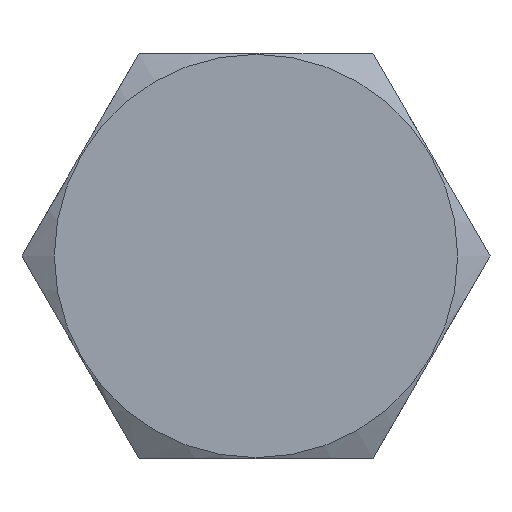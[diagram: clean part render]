
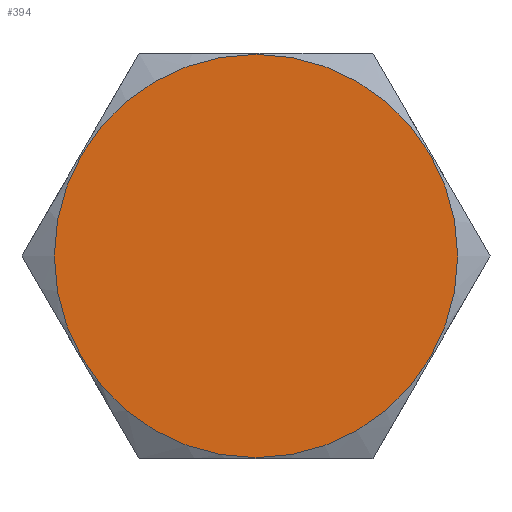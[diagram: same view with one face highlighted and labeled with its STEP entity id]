
A CAD part, front view. The second image highlights one B-rep face of the part: STEP entity #394.
In plain terms, the highlighted planar face has unit normal (0, -1, 0).
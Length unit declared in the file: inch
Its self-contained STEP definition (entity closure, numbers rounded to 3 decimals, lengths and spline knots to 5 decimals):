
#45=PLANE('',#448);
#74=FACE_OUTER_BOUND('',#100,.T.);
#100=EDGE_LOOP('',(#357));
#163=CIRCLE('',#447,0.684);
#200=VERTEX_POINT('',#796);
#254=EDGE_CURVE('',#200,#200,#163,.T.);
#357=ORIENTED_EDGE('',*,*,#254,.F.);
#394=ADVANCED_FACE('',(#74),#45,.T.);
#447=AXIS2_PLACEMENT_3D('',#797,#544,#545);
#448=AXIS2_PLACEMENT_3D('',#799,#547,#548);
#544=DIRECTION('center_axis',(0.,1.,0.));
#545=DIRECTION('ref_axis',(0.,0.,1.));
#547=DIRECTION('center_axis',(0.,-1.,0.));
#548=DIRECTION('ref_axis',(0.,0.,-1.));
#796=CARTESIAN_POINT('',(0.,0.,-0.684));
#797=CARTESIAN_POINT('Origin',(0.,0.,0.));
#799=CARTESIAN_POINT('Origin',(0.,0.,0.));
